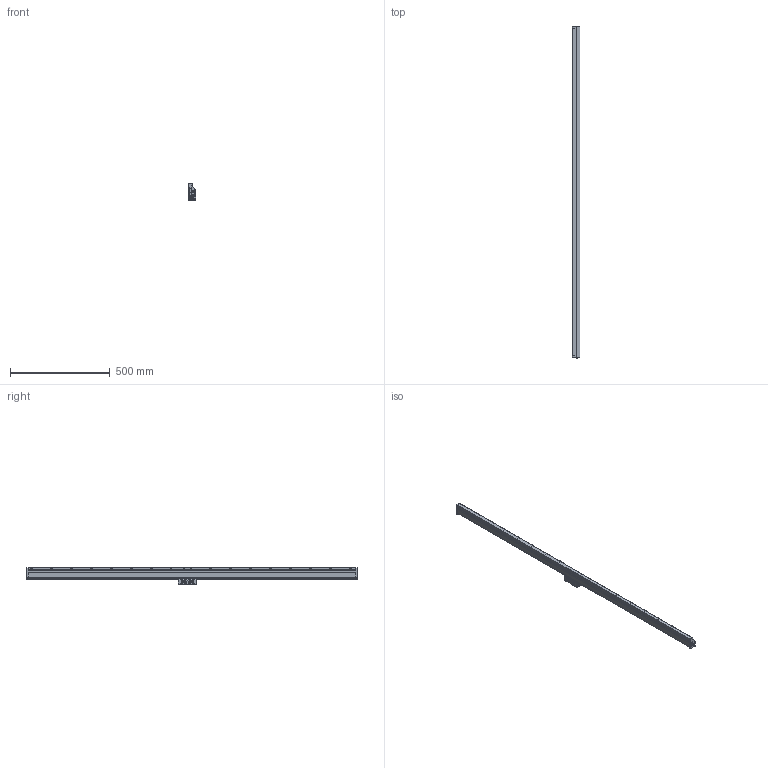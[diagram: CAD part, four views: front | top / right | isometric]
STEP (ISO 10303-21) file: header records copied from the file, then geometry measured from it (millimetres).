
FILE_DESCRIPTION(('Creo Elements/Direct Modeling STEP Export'),'2;1');
FILE_NAME('AT1153-1540.stp','2018-10-12T11:46:40',(''),(''),'Creo Elements/Direct Modeling STEP processor for AP214 (Solid Model)','Creo Elements/Direct Modeling 18.1B 29-Sep-2012 (C) Parametric Technology GmbH','');
FILE_SCHEMA(('AUTOMOTIVE_DESIGN { 1 0 10303 214 1 1 1 1 }'));
Products named in the file (3): Scale_1540; DetectorHead; AT1153-1540
Assembly tree (2 placements, depth 2):
  AT1153-1540
    DetectorHead
    Scale_1540
Bounding box: 37 x 1668.31 x 85 mm (x, y, z)
Volume: 75076.9 mm3; surface area: 377922.6 mm2
Topology: 1 solids, 2 shells, 3109 faces, 8334 edges, 5407 vertices
Faces by surface type: plane 1844, cylinder 1039, cone 124, torus 69, bspline 13, sphere 12, extrusion 8
Entity records: 99505 total; most frequent: CARTESIAN_POINT 18585, ORIENTED_EDGE 16762, DIRECTION 15686, EDGE_CURVE 8320, VERTEX_POINT 5407, VECTOR 5372, LINE 5364, AXIS2_PLACEMENT_3D 5157
